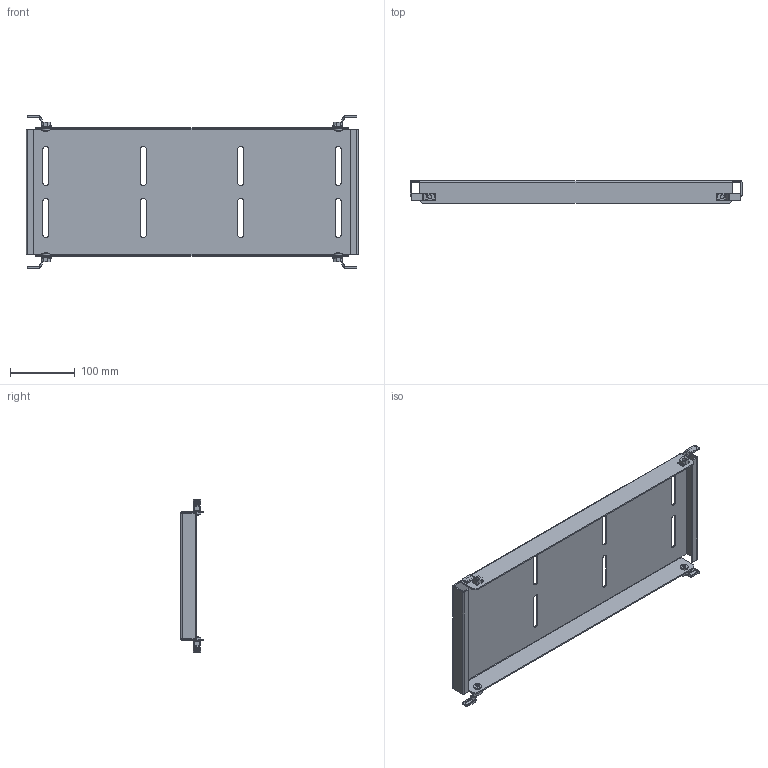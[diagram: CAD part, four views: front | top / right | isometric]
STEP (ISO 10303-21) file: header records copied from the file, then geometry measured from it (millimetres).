
FILE_DESCRIPTION(('CAx-IF Rec.Pracs.---Model Styling and Organization---1.2---2011-12-15','CAx-IF Rec.Pracs.---Geometric and Assembly Validation Properties---4.1---2014-06-16','CAx-IF Rec.Pracs.---PMI Polyline Presentation---2.0---2013-05-24'),'2;1');
FILE_NAME('R5D5360.stp','2021-05-05T15:02:14+03:00',(''),(''),'STEP Interface 4.4 by CT CoreTechnologie','3D_Evolution4.4 by CT CoreTechnologie','');
FILE_SCHEMA(('AUTOMOTIVE_DESIGN { 1 0 10303 214 1 1 1 1 }'));
Length unit declared in the file: millimetre
Products named in the file (4): R5D5360; M6x16-DIN 7985 ISR_thread; AC00C485; RB.0703.00.00.0_-00
Assembly tree (9 placements, depth 2):
  R5D5360
    M6x16-DIN 7985 ISR_thread  x4
    AC00C485  x4
    RB.0703.00.00.0_-00
Bounding box: 511 x 35 x 235 mm (x, y, z)
Surface area: 293482.8 mm2 (no closed solid volume)
Topology: 0 solids, 13 shells, 462 faces, 1136 edges, 688 vertices
Faces by surface type: plane 210, cylinder 196, bspline 56
Entity records: 6266 total; most frequent: CARTESIAN_POINT 1459, DIRECTION 971, ORIENTED_EDGE 932, EDGE_CURVE 466, AXIS2_PLACEMENT_3D 334, VECTOR 303, LINE 303, VERTEX_POINT 286
